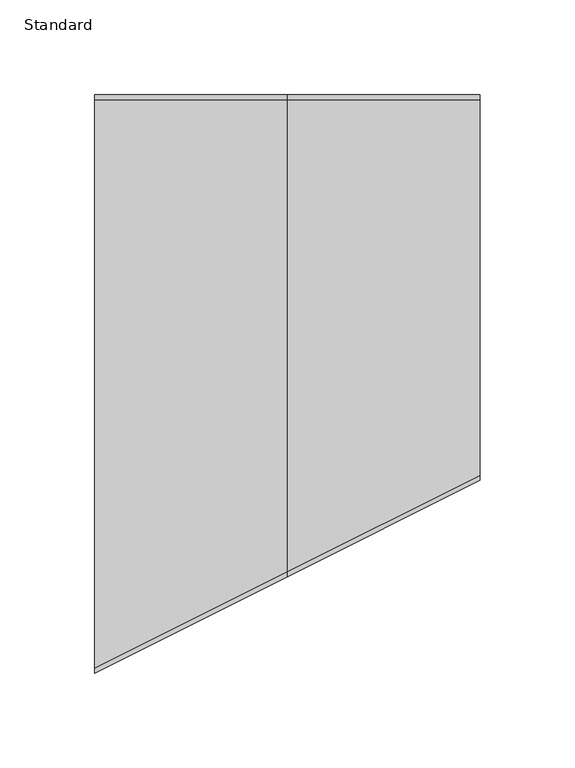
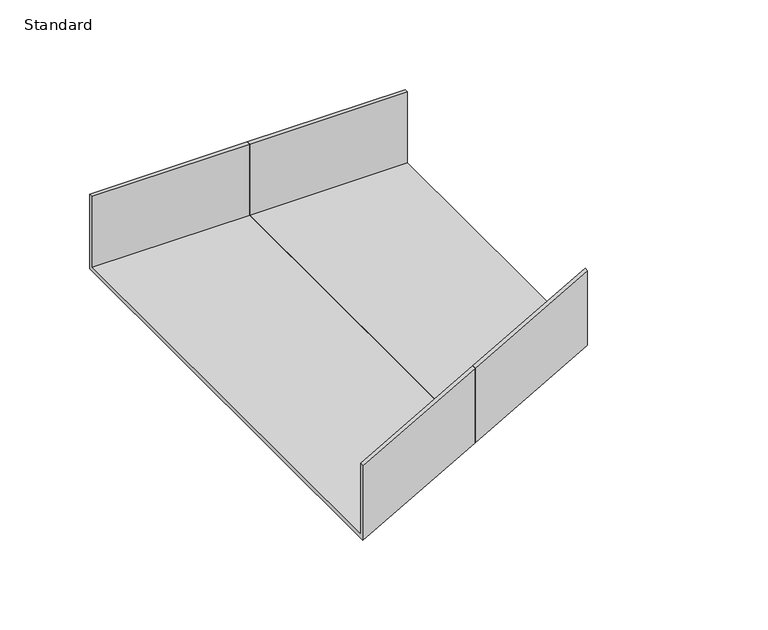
"""IFC4 building model written with IfcOpenShell, lengths in millimetres: cable carrier fitting geometry, Reducer-Cablofil-Wire_Mesh_Cable_Tray : Standard."""

from ifc_helpers import new_model, si_unit, origin, place, context, project, spatial, faceted_brep, source, transform, mapped, element, save


def standard_be66f974(model_context):
    return source(origin(), model_context, "Body", "Brep", [
        faceted_brep([(101.6, -48.26, 25.4), (101.6, -50.8, 25.4), (101.6, -50.8, -25.4), (101.6, 152.4, -25.4), (101.6, 152.4, 25.4), (101.6, 149.86, 25.4), (101.6, 149.86, -22.86), (101.6, -48.26, -22.86), (0.0, -99.06, 25.4), (0.0, -99.06, -22.86), (0.0, 149.86, -22.86), (0.0, 149.86, 25.4), (0.0, 152.4, 25.4), (0.0, 152.4, -25.4), (0.0, -101.6, -25.4), (0.0, -101.6, 25.4)], [[[0, 1, 2, 3, 4, 5, 6, 7]], [[8, 9, 10, 11, 12, 13, 14, 15]], [[8, 15, 1, 0]], [[15, 14, 2, 1]], [[14, 13, 3, 2]], [[13, 12, 4, 3]], [[12, 11, 5, 4]], [[11, 10, 6, 5]], [[10, 9, 7, 6]], [[9, 8, 0, 7]]]),
        faceted_brep([(0.0, -99.06, 25.4), (0.0, -101.6, 25.4), (0.0, -101.6, -25.4), (0.0, 152.4, -25.4), (0.0, 152.4, 25.4), (0.0, 149.86, 25.4), (0.0, 149.86, -22.86), (0.0, -99.06, -22.86), (-101.6, -149.86, 25.4), (-101.6, -149.86, -22.86), (-101.6, 149.86, -22.86), (-101.6, 149.86, 25.4), (-101.6, 152.4, 25.4), (-101.6, 152.4, -25.4), (-101.6, -152.4, -25.4), (-101.6, -152.4, 25.4)], [[[0, 1, 2, 3, 4, 5, 6, 7]], [[8, 9, 10, 11, 12, 13, 14, 15]], [[8, 15, 1, 0]], [[15, 14, 2, 1]], [[14, 13, 3, 2]], [[13, 12, 4, 3]], [[12, 11, 5, 4]], [[11, 10, 6, 5]], [[10, 9, 7, 6]], [[9, 8, 0, 7]]]),
    ])


if __name__ == "__main__":
    model = new_model("IFC4")
    model_context = context("Model", 3, world=origin())
    ifc_project = project(units=[si_unit("LENGTHUNIT", "METRE", prefix="MILLI")], contexts=[model_context])
    site = spatial("IfcSite", under=ifc_project)
    building = spatial("IfcBuilding", under=site)
    placement = place(None, origin())
    standard_shape = standard_be66f974(model_context)
    element("IfcCableCarrierFitting", 1, ObjectType="Reducer-Cablofil-Wire_Mesh_Cable_Tray : Standard", at=placement, inside=building, context=model_context, shape_type="MappedRepresentation", body=[
        mapped(standard_shape, transform((0.0, 0.0, 0.0), x_axis=(1.0, 0.0, 0.0), y_axis=(0.0, 1.0, 0.0), z_axis=(0.0, 0.0, 1.0))),
    ])
    save(model, "model.ifc")
